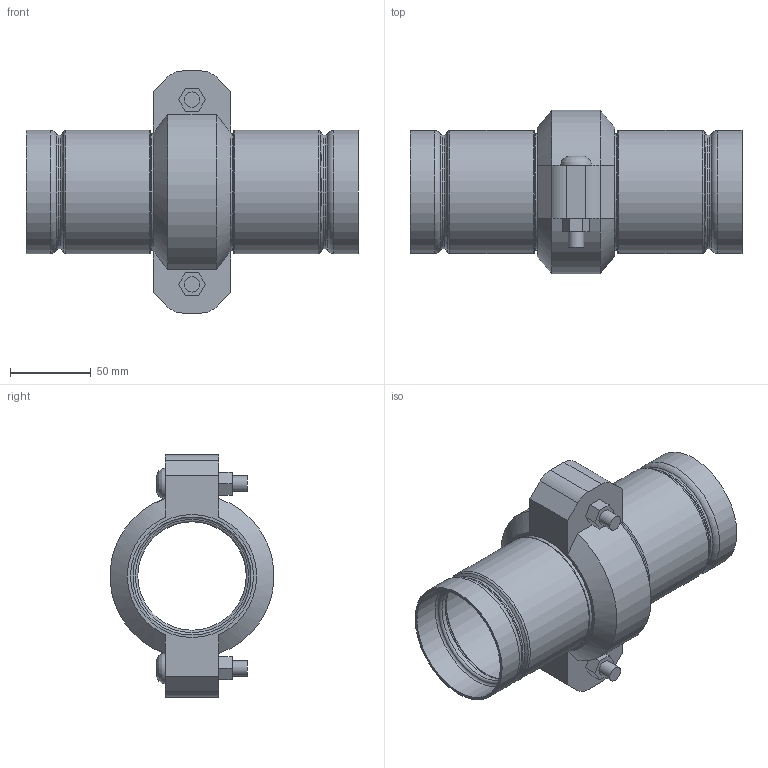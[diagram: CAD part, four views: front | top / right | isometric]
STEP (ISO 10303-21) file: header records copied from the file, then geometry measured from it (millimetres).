
FILE_DESCRIPTION(/* description */ ('VIC STRENGTHIN 100 EXPANSION JOINT 1 COUPLING NEUTRAL STYLE E155 (ST1)','CAx-IF Rec.Pracs.---Representation and Presentation of Product Manufacturing Information (PMI)---4.0---2014-10-13'),/* implementation_level */ '2;1');
FILE_NAME(/* name */ 'C:\Users\Vjadhav\AppData\Roaming\Autodesk\ApplicationPlugins\Victaulic.Temp\A726\Victaulic_SS-StrengThin 100_Expansion Joint_Neutral_1 Coupling_Style E155 (ST1)_1 Coup_Neut_02.5 (76.1) (65).stp',/* time_stamp */ '2021-07-20T17:38:31+05:00',/* author */ ('kkamble'),/* organization */ ('Victaulic'),/* preprocessor_version */ 'ST-DEVELOPER v17.2',/* originating_system */ 'Autodesk Inventor 2019',/* authorisation */ '');
FILE_SCHEMA (('AP242_MANAGED_MODEL_BASED_3D_ENGINEERING_MIM_LF { 1 0 10303 442 1 1 4 }'));
Length unit declared in the file: inch
Products named in the file (3): E155-02.5 (76.1); E494G-02.5 (76.1); 075-02.5 (76.1)
Assembly tree (3 placements, depth 2):
  E155-02.5 (76.1)
    E494G-02.5 (76.1)  x2
    075-02.5 (76.1)
Bounding box: 205.49 x 101.25 x 149.86 mm (x, y, z)
Volume: 300743.4 mm3; surface area: 145970.7 mm2
Topology: 3 solids, 5 shells, 125 faces, 359 edges, 258 vertices
Faces by surface type: plane 48, cylinder 35, torus 32, cone 8, bspline 2
Full cylindrical faces by diameter (mm): 9.525 x4, 11.43 x2, 67.158 x2, 69.063 x2, 69.85 x1, 70.358 x2, 72.263 x2, 73 x6, 76.2 x8
Entity records: 3300 total; most frequent: CARTESIAN_POINT 614, DIRECTION 571, ORIENTED_EDGE 496, EDGE_CURVE 248, AXIS2_PLACEMENT_3D 238, VERTEX_POINT 175, CIRCLE 143, EDGE_LOOP 109
